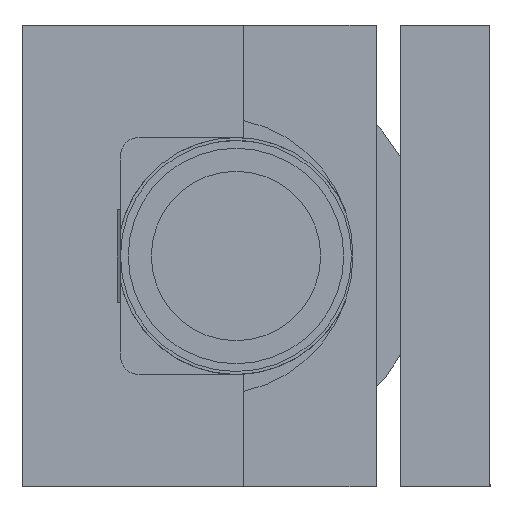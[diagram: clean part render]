
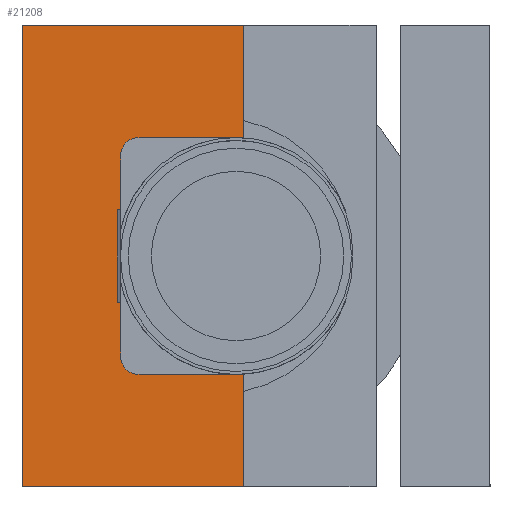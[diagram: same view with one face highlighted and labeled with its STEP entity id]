
A CAD part, left-side view. The second image highlights one B-rep face of the part: STEP entity #21208.
In plain terms, the highlighted planar face has unit normal (-1, 0, 0).
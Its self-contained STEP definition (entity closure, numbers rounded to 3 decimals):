
#87 = EDGE_CURVE ( 'NONE', #18541, #14673, #12766, .T. ) ;
#457 = LINE ( 'NONE', #8713, #805 ) ;
#764 = VERTEX_POINT ( 'NONE', #10189 ) ;
#805 = VECTOR ( 'NONE', #15075, 1000. ) ;
#869 = VECTOR ( 'NONE', #9128, 1000. ) ;
#912 = LINE ( 'NONE', #5885, #20480 ) ;
#1033 = EDGE_LOOP ( 'NONE', ( #6085, #1673, #4635, #1424, #8270, #4973, #5274, #15401, #11011, #18291, #1972, #7554, #5982, #18184 ) ) ;
#1296 = DIRECTION ( 'NONE',  ( 0., 1., 0. ) ) ;
#1424 = ORIENTED_EDGE ( 'NONE', *, *, #17038, .T. ) ;
#1469 = CARTESIAN_POINT ( 'NONE',  ( -14.5, -36., 38.5 ) ) ;
#1512 = LINE ( 'NONE', #13091, #1825 ) ;
#1673 = ORIENTED_EDGE ( 'NONE', *, *, #4985, .T. ) ;
#1743 = CARTESIAN_POINT ( 'NONE',  ( -14.5, 0., 0. ) ) ;
#1825 = VECTOR ( 'NONE', #16134, 1000. ) ;
#1972 = ORIENTED_EDGE ( 'NONE', *, *, #9778, .F. ) ;
#1998 = VECTOR ( 'NONE', #1296, 1000. ) ;
#2032 = CARTESIAN_POINT ( 'NONE',  ( -14.5, -2., 38.5 ) ) ;
#2079 = VERTEX_POINT ( 'NONE', #12638 ) ;
#2226 = VECTOR ( 'NONE', #5832, 1000. ) ;
#2648 = EDGE_CURVE ( 'NONE', #8231, #20046, #7082, .T. ) ;
#2802 = CARTESIAN_POINT ( 'NONE',  ( -14.5, -2., -38.5 ) ) ;
#3649 = DIRECTION ( 'NONE',  ( 0., 1., 0. ) ) ;
#4635 = ORIENTED_EDGE ( 'NONE', *, *, #9117, .F. ) ;
#4973 = ORIENTED_EDGE ( 'NONE', *, *, #12403, .T. ) ;
#4985 = EDGE_CURVE ( 'NONE', #17102, #9046, #7219, .T. ) ;
#4994 = VECTOR ( 'NONE', #19763, 1000. ) ;
#5274 = ORIENTED_EDGE ( 'NONE', *, *, #19727, .F. ) ;
#5619 = LINE ( 'NONE', #14160, #2226 ) ;
#5622 = AXIS2_PLACEMENT_3D ( 'NONE', #12213, #12531, #10599 ) ;
#5832 = DIRECTION ( 'NONE',  ( 0., -1., 0. ) ) ;
#5885 = CARTESIAN_POINT ( 'NONE',  ( -14.5, 4., -15. ) ) ;
#5982 = ORIENTED_EDGE ( 'NONE', *, *, #11729, .T. ) ;
#6085 = ORIENTED_EDGE ( 'NONE', *, *, #17081, .T. ) ;
#6561 = CARTESIAN_POINT ( 'NONE',  ( -14.5, -36., 75. ) ) ;
#6732 = CARTESIAN_POINT ( 'NONE',  ( -14.5, 36., -75. ) ) ;
#6802 = CARTESIAN_POINT ( 'NONE',  ( -14.5, 5.057, -15. ) ) ;
#7082 = LINE ( 'NONE', #11636, #869 ) ;
#7219 = LINE ( 'NONE', #10551, #15707 ) ;
#7554 = ORIENTED_EDGE ( 'NONE', *, *, #87, .T. ) ;
#7757 = CARTESIAN_POINT ( 'NONE',  ( -14.5, 5.057, 15. ) ) ;
#7918 = CARTESIAN_POINT ( 'NONE',  ( -14.5, 4., -38.5 ) ) ;
#8231 = VERTEX_POINT ( 'NONE', #6732 ) ;
#8270 = ORIENTED_EDGE ( 'NONE', *, *, #18379, .T. ) ;
#8361 = DIRECTION ( 'NONE',  ( -1., 0., 0. ) ) ;
#8710 = CARTESIAN_POINT ( 'NONE',  ( -14.5, 4., 38.5 ) ) ;
#8713 = CARTESIAN_POINT ( 'NONE',  ( -14.5, -36., -75. ) ) ;
#8853 = VERTEX_POINT ( 'NONE', #10362 ) ;
#9046 = VERTEX_POINT ( 'NONE', #7757 ) ;
#9117 = EDGE_CURVE ( 'NONE', #10205, #9046, #16830, .T. ) ;
#9128 = DIRECTION ( 'NONE',  ( 0., 0., 1. ) ) ;
#9150 = DIRECTION ( 'NONE',  ( 0., 0., 1. ) ) ;
#9622 = VERTEX_POINT ( 'NONE', #2032 ) ;
#9778 = EDGE_CURVE ( 'NONE', #18541, #8853, #19341, .T. ) ;
#9969 = VECTOR ( 'NONE', #18039, 1000. ) ;
#10143 = CARTESIAN_POINT ( 'NONE',  ( -14.5, 4., 32.5 ) ) ;
#10189 = CARTESIAN_POINT ( 'NONE',  ( -14.5, -36., 75. ) ) ;
#10205 = VERTEX_POINT ( 'NONE', #18560 ) ;
#10362 = CARTESIAN_POINT ( 'NONE',  ( -14.5, -36., -75. ) ) ;
#10410 = VERTEX_POINT ( 'NONE', #10143 ) ;
#10540 = VERTEX_POINT ( 'NONE', #12076 ) ;
#10551 = CARTESIAN_POINT ( 'NONE',  ( -14.5, 5.057, -15. ) ) ;
#10599 = DIRECTION ( 'NONE',  ( 0., 0., 1. ) ) ;
#10945 = AXIS2_PLACEMENT_3D ( 'NONE', #1743, #8361, #13297 ) ;
#11011 = ORIENTED_EDGE ( 'NONE', *, *, #2648, .F. ) ;
#11380 = CARTESIAN_POINT ( 'NONE',  ( -14.5, 36., 75. ) ) ;
#11592 = PLANE ( 'NONE',  #10945 ) ;
#11636 = CARTESIAN_POINT ( 'NONE',  ( -14.5, 36., 75. ) ) ;
#11729 = EDGE_CURVE ( 'NONE', #14673, #2079, #16024, .T. ) ;
#11871 = CARTESIAN_POINT ( 'NONE',  ( -14.5, 4., 38.5 ) ) ;
#11945 = VECTOR ( 'NONE', #15296, 1000. ) ;
#12076 = CARTESIAN_POINT ( 'NONE',  ( -14.5, 4., -15. ) ) ;
#12172 = VECTOR ( 'NONE', #9150, 1000. ) ;
#12213 = CARTESIAN_POINT ( 'NONE',  ( -14.5, -2., 32.5 ) ) ;
#12403 = EDGE_CURVE ( 'NONE', #9622, #21421, #15070, .T. ) ;
#12531 = DIRECTION ( 'NONE',  ( 1., 0., 0. ) ) ;
#12638 = CARTESIAN_POINT ( 'NONE',  ( -14.5, 4., -32.5 ) ) ;
#12740 = DIRECTION ( 'NONE',  ( 1., 0., 0. ) ) ;
#12766 = LINE ( 'NONE', #7918, #1998 ) ;
#13065 = CARTESIAN_POINT ( 'NONE',  ( -14.5, -36., -38.5 ) ) ;
#13091 = CARTESIAN_POINT ( 'NONE',  ( -14.5, 4., 38.5 ) ) ;
#13297 = DIRECTION ( 'NONE',  ( 0., 0., 1. ) ) ;
#13975 = DIRECTION ( 'NONE',  ( 0., 1., 0. ) ) ;
#14160 = CARTESIAN_POINT ( 'NONE',  ( -14.5, -36., 75. ) ) ;
#14673 = VERTEX_POINT ( 'NONE', #2802 ) ;
#14764 = CARTESIAN_POINT ( 'NONE',  ( -14.5, -36., 75. ) ) ;
#14973 = AXIS2_PLACEMENT_3D ( 'NONE', #20987, #12740, #16102 ) ;
#15070 = LINE ( 'NONE', #8710, #11945 ) ;
#15075 = DIRECTION ( 'NONE',  ( 0., 1., 0. ) ) ;
#15296 = DIRECTION ( 'NONE',  ( 0., -1., 0. ) ) ;
#15401 = ORIENTED_EDGE ( 'NONE', *, *, #19110, .F. ) ;
#15707 = VECTOR ( 'NONE', #16857, 1000. ) ;
#15756 = LINE ( 'NONE', #11871, #12172 ) ;
#16024 = CIRCLE ( 'NONE', #14973, 6. ) ;
#16102 = DIRECTION ( 'NONE',  ( 0., 0., 1. ) ) ;
#16134 = DIRECTION ( 'NONE',  ( 0., 0., 1. ) ) ;
#16466 = FACE_OUTER_BOUND ( 'NONE', #1033, .T. ) ;
#16830 = LINE ( 'NONE', #20588, #18949 ) ;
#16857 = DIRECTION ( 'NONE',  ( 0., 0., 1. ) ) ;
#17038 = EDGE_CURVE ( 'NONE', #10205, #10410, #15756, .T. ) ;
#17081 = EDGE_CURVE ( 'NONE', #10540, #17102, #912, .T. ) ;
#17102 = VERTEX_POINT ( 'NONE', #6802 ) ;
#17359 = EDGE_CURVE ( 'NONE', #2079, #10540, #1512, .T. ) ;
#18039 = DIRECTION ( 'NONE',  ( 0., 0., -1. ) ) ;
#18184 = ORIENTED_EDGE ( 'NONE', *, *, #17359, .T. ) ;
#18291 = ORIENTED_EDGE ( 'NONE', *, *, #18795, .F. ) ;
#18379 = EDGE_CURVE ( 'NONE', #10410, #9622, #20126, .T. ) ;
#18541 = VERTEX_POINT ( 'NONE', #13065 ) ;
#18560 = CARTESIAN_POINT ( 'NONE',  ( -14.5, 4., 15. ) ) ;
#18795 = EDGE_CURVE ( 'NONE', #8853, #8231, #457, .T. ) ;
#18949 = VECTOR ( 'NONE', #13975, 1000. ) ;
#19110 = EDGE_CURVE ( 'NONE', #20046, #764, #5619, .T. ) ;
#19341 = LINE ( 'NONE', #14764, #9969 ) ;
#19727 = EDGE_CURVE ( 'NONE', #764, #21421, #21389, .T. ) ;
#19763 = DIRECTION ( 'NONE',  ( 0., 0., -1. ) ) ;
#20046 = VERTEX_POINT ( 'NONE', #11380 ) ;
#20126 = CIRCLE ( 'NONE', #5622, 6. ) ;
#20480 = VECTOR ( 'NONE', #3649, 1000. ) ;
#20588 = CARTESIAN_POINT ( 'NONE',  ( -14.5, 4., 15. ) ) ;
#20987 = CARTESIAN_POINT ( 'NONE',  ( -14.5, -2., -32.5 ) ) ;
#21208 = ADVANCED_FACE ( 'NONE', ( #16466 ), #11592, .T. ) ;
#21389 = LINE ( 'NONE', #6561, #4994 ) ;
#21421 = VERTEX_POINT ( 'NONE', #1469 ) ;
